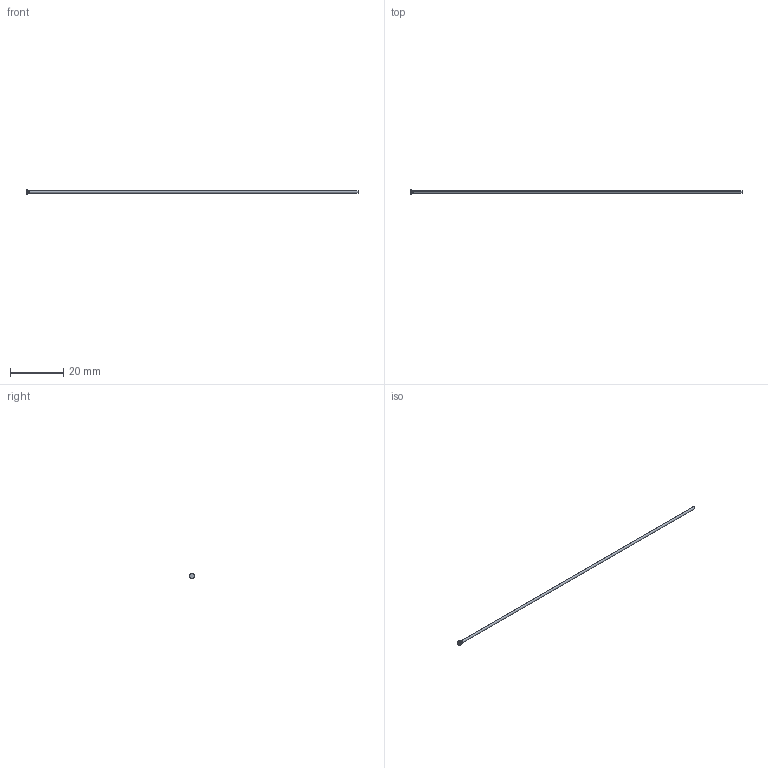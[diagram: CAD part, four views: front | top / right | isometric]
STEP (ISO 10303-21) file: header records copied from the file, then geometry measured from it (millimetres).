
FILE_DESCRIPTION (( 'STEP AP214' ), '1' );
FILE_NAME ('D-1x125.STEP', '2020-06-08T09:49:17', ( 'August' ), ( '' ), 'SwSTEP 2.0', 'SolidWorks 2018', '' );
FILE_SCHEMA (( 'AUTOMOTIVE_DESIGN' ));
Length unit declared in the file: millimetre
Products named in the file (1): D-1x125
Bounding box: 125 x 1.8 x 1.8 mm (x, y, z)
Volume: 99.6 mm3; surface area: 398.6 mm2
Topology: 1 solids, 1 shells, 10 faces, 18 edges, 10 vertices
Faces by surface type: cylinder 4, torus 2, cone 2, plane 2
Entity records: 280 total; most frequent: DIRECTION 52, CARTESIAN_POINT 39, ORIENTED_EDGE 36, AXIS2_PLACEMENT_3D 23, EDGE_CURVE 18, CIRCLE 12, EDGE_LOOP 10, VERTEX_POINT 10
